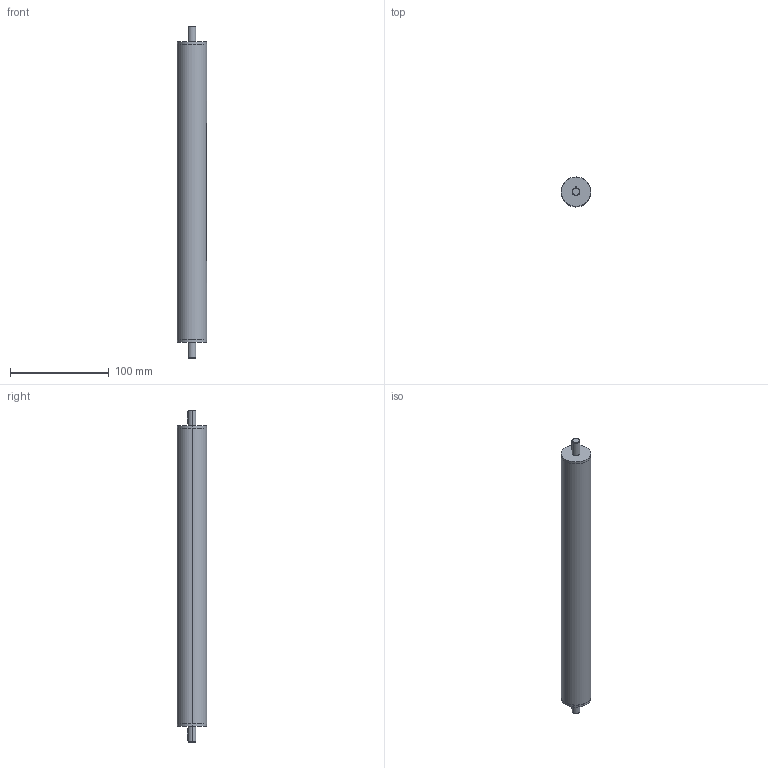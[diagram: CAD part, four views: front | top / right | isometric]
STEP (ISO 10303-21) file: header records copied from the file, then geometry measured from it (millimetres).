
FILE_DESCRIPTION (( 'STEP AP214' ), '1' );
FILE_NAME ('291-30-100-R1-SCR.step', '2023-08-30T05:20:16', ( '' ), ( '' ), 'SwSTEP 2.0', 'SolidWorks 2022', '' );
FILE_SCHEMA (( 'AUTOMOTIVE_DESIGN' ));
Length unit declared in the file: millimetre
Products named in the file (3): WB2910 Rund^WBVES_30-100; 291-30-100-R1-SCR; WB2910 mutter^WBVES_Tr14-M4
Assembly tree (2 placements, depth 2):
  291-30-100-R1-SCR
    WB2910 mutter^WBVES_Tr14-M4
    WB2910 Rund^WBVES_30-100
Bounding box: 30 x 30 x 337 mm (x, y, z)
Volume: 102217.8 mm3; surface area: 74720.9 mm2
Topology: 2 solids, 2 shells, 59 faces, 137 edges, 86 vertices
Faces by surface type: cylinder 30, plane 21, cone 8
Entity records: 2160 total; most frequent: CARTESIAN_POINT 489, DIRECTION 299, ORIENTED_EDGE 266, EDGE_CURVE 133, AXIS2_PLACEMENT_3D 116, VERTEX_POINT 86, EDGE_LOOP 71, VECTOR 67
